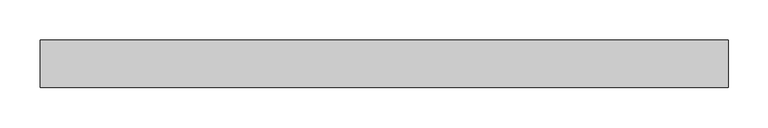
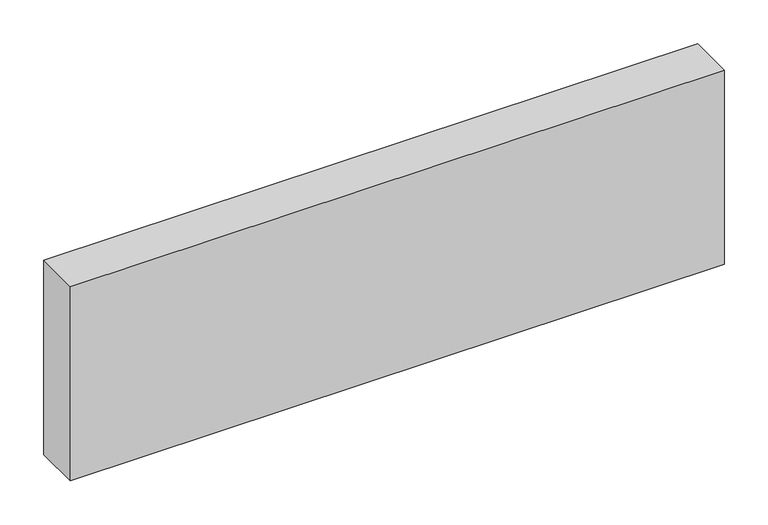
"""IFC4 building model written with IfcOpenShell, lengths in millimetres: plate geometry, Системная панель : Алюкобонд красный."""

from ifc_helpers import new_model, si_unit, origin, origin_with_axes, place, context, project, spatial, polyline, outline, extrude, source, transform, mapped, element, save


def plate_d012a6fd(model_context):
    return source(origin(), model_context, "Body", "SweptSolid", [
        extrude(outline(polyline([(430.0, -10.5), (-430.0, -10.5), (-430.0, 49.5), (430.0, 49.5), (430.0, -10.5)])), origin_with_axes(), (0.0, 0.0, 1.0), 270.0),
    ])


if __name__ == "__main__":
    model = new_model("IFC4")
    model_context = context("Model", 3, world=origin())
    ifc_project = project(units=[si_unit("LENGTHUNIT", "METRE", prefix="MILLI")], contexts=[model_context])
    site = spatial("IfcSite", under=ifc_project)
    building = spatial("IfcBuilding", under=site)
    placement = place(None, origin())
    plate_shape = plate_d012a6fd(model_context)
    element("IfcPlate", 1, ObjectType="Системная панель : Алюкобонд красный", at=placement, inside=building, context=model_context, shape_type="MappedRepresentation", body=[
        mapped(plate_shape, transform((0.0, 0.0, 0.0), x_axis=(1.0, 0.0, 0.0), y_axis=(0.0, 1.0, 0.0), z_axis=(0.0, 0.0, 1.0))),
    ])
    save(model, "model.ifc")
